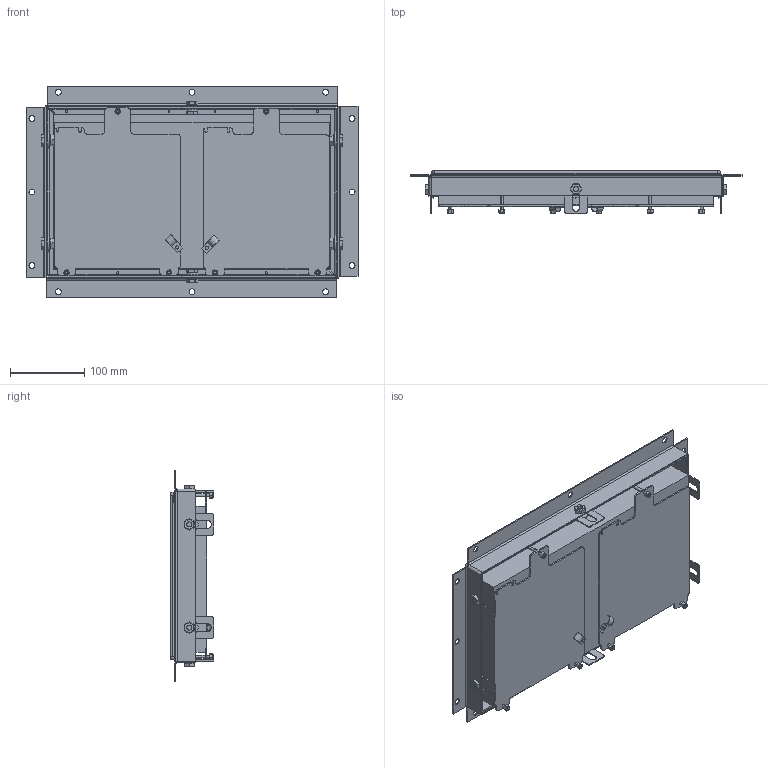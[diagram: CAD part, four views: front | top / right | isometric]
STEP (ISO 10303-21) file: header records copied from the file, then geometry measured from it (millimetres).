
FILE_DESCRIPTION (( 'STEP AP214' ), '1' );
FILE_NAME ('MS-I-20-SLC_120458_120459.STEP', '2019-02-07T10:22:33', ( '' ), ( '' ), 'SwSTEP 2.0', 'SolidWorks 2018', '' );
FILE_SCHEMA (( 'AUTOMOTIVE_DESIGN' ));
Length unit declared in the file: millimetre
Products named in the file (1): MS-I-20-SLC_120458_120459
Bounding box: 447 x 58.4 x 285 mm (x, y, z)
Volume: 3786312.1 mm3; surface area: 484885.9 mm2
Topology: 1 solids, 1 shells, 1490 faces, 3605 edges, 2236 vertices
Faces by surface type: cylinder 660, plane 596, bspline 98, torus 84, cone 52
Entity records: 66862 total; most frequent: CARTESIAN_POINT 15617, DIRECTION 7432, ORIENTED_EDGE 7114, EDGE_CURVE 3557, AXIS2_PLACEMENT_3D 2923, VERTEX_POINT 2236, EDGE_LOOP 1757, VECTOR 1586
